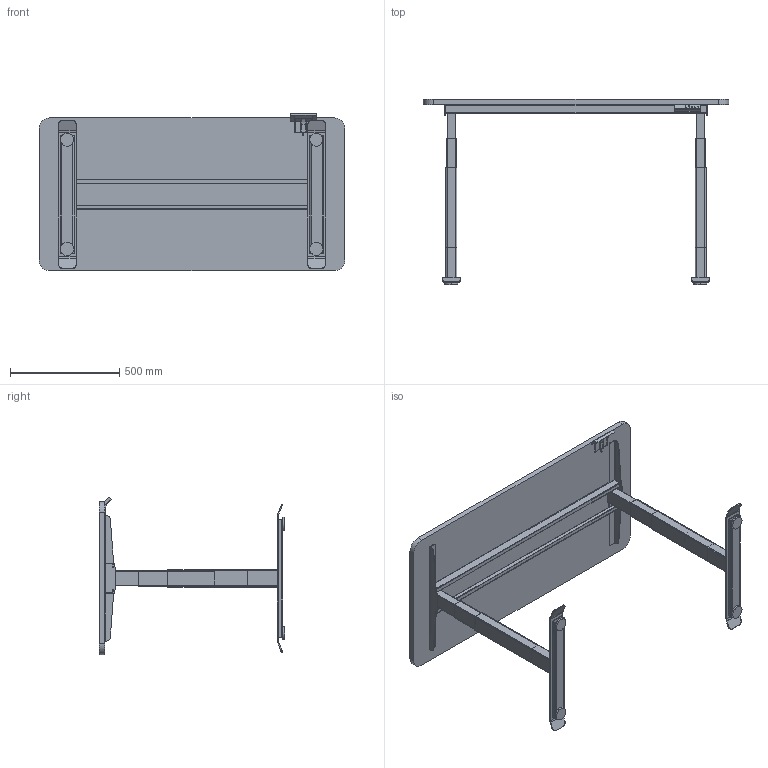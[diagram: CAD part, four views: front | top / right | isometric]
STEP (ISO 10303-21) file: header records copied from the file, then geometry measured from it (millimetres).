
FILE_DESCRIPTION (( 'STEP AP214' ), '1' );
FILE_NAME ('1400×700升降桌.STEP', '2019-12-13T14:04:36', ( '' ), ( '' ), 'SwSTEP 2.0', 'SolidWorks 2014', '' );
FILE_SCHEMA (( 'AUTOMOTIVE_DESIGN' ));
Length unit declared in the file: millimetre
Products named in the file (7): 袤虯1; 1400℅700袤醱; 紱釬醱啣; 袤虯4; 1400℅700汔蔥袤; 袤虯3; 袤虯2
Assembly tree (9 placements, depth 2):
  1400℅700汔蔥袤
    袤虯1  x2
    1400℅700袤醱
    袤虯2  x2
    袤虯3  x2
    袤虯4
    紱釬醱啣
Bounding box: 1400 x 850 x 721.21 mm (x, y, z)
Volume: 28739110.1 mm3; surface area: 4749003.9 mm2
Topology: 19 solids, 19 shells, 383 faces, 982 edges, 646 vertices
Faces by surface type: plane 253, cylinder 101, bspline 27, torus 2
Entity records: 11400 total; most frequent: CARTESIAN_POINT 3666, ORIENTED_EDGE 1404, DIRECTION 1290, EDGE_CURVE 702, VECTOR 522, LINE 522, VERTEX_POINT 462, AXIS2_PLACEMENT_3D 384
